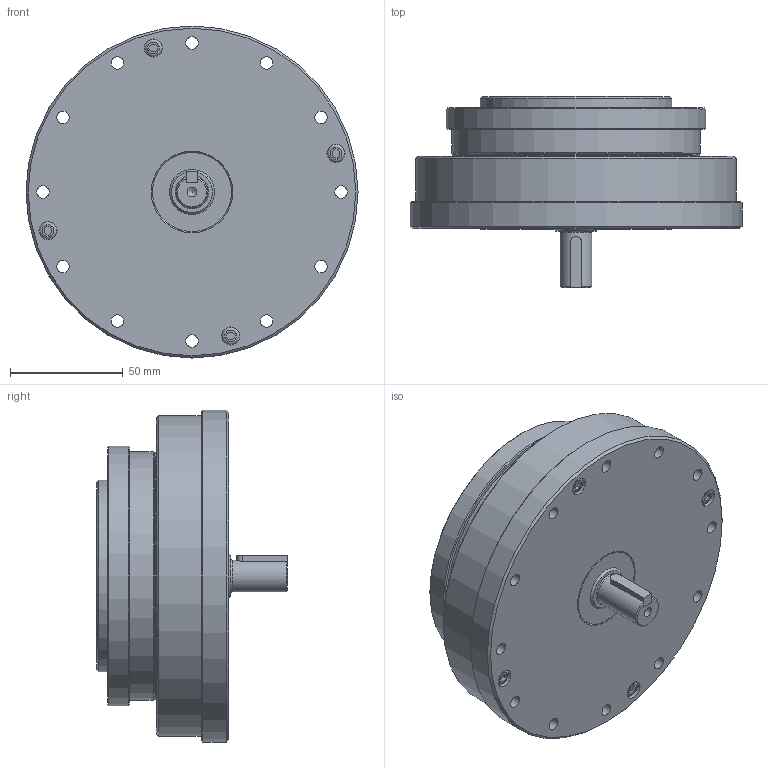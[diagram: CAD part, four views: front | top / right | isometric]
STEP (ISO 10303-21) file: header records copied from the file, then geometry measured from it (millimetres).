
FILE_DESCRIPTION(/* description */ (''),/* implementation_level */ '2;1');
FILE_NAME(/* name */ 'LHT-32-U-4',/* time_stamp */ '2017-09-16T15:52:43+08:00',/* author */ (''),/* organization */ (''),/* preprocessor_version */ 'ST-DEVELOPER v9',/* originating_system */ 'UGS - NX 4.0',/* authorisation */ '');
FILE_SCHEMA (('AUTOMOTIVE_DESIGN { 1 0 10303 214 1 1 1 1 }'));
Length unit declared in the file: millimetre
Products named in the file (1): Admi85A9d2qv
Bounding box: 147 x 84.5 x 147 mm (x, y, z)
Volume: 611558.1 mm3; surface area: 279126.8 mm2
Topology: 80 solids, 80 shells, 833 faces, 2052 edges, 1371 vertices
Faces by surface type: plane 294, cylinder 293, cone 149, torus 51, sphere 42, revolution 2, extrusion 1, bspline 1
Full cylindrical faces by diameter (mm): 2 x1, 2.135 x6, 3 x3, 3.432 x16, 3.5 x3, 4 x12, 4.351 x17, 4.5 x20, 5.5 x71, 7.144 x1, 7.22 x8, 7.5 x4, 7.6 x4, 8 x4, 8.5 x4, 14 x1, 15 x2, 18 x1, 18.3 x1, 19 x2, 20 x4, 23 x1, 24.7 x1, 25 x1, 26 x1, 26.9 x1, 28 x2, 35 x2, 35.1 x1, 37.5 x1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
Entity records: 20996 total; most frequent: DIRECTION 3744, CARTESIAN_POINT 3480, ORIENTED_EDGE 2462, AXIS2_PLACEMENT_3D 1680, EDGE_LOOP 1543, EDGE_CURVE 1231, FACE_BOUND 1130, VERTEX_POINT 1118
